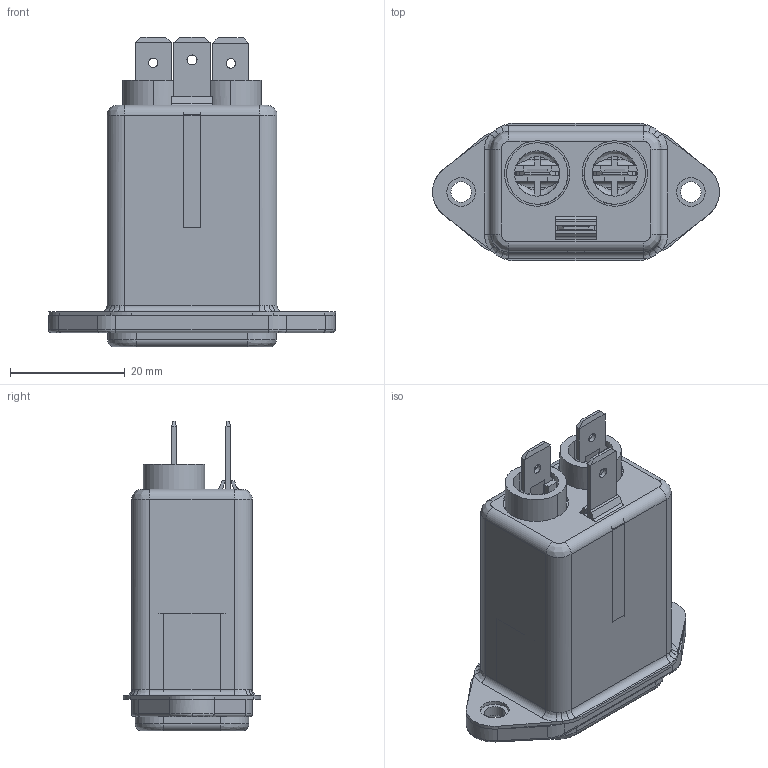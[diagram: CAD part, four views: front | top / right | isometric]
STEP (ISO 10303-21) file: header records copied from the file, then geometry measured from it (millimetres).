
FILE_DESCRIPTION (( 'STEP AP214' ), '1' );
FILE_NAME ('RID-EMC.STEP', '2015-02-02T10:03:07', ( '' ), ( '' ), 'SwSTEP 2.0', 'SolidWorks 2014', '' );
FILE_SCHEMA (( 'AUTOMOTIVE_DESIGN' ));
Length unit declared in the file: millimetre
Products named in the file (9): faston tab 250 L_ｦﾔｦ+; [ﾁ++､ｦﾔ+ｼ] Base Body A(140109)_ﾃﾑ-ﾏ; ENCLOSURE A1_ﾃﾑ-ﾏ; EARTH TAB F_ｦﾔｦ+; inlet body DAC-3; faston tab 250 R_ｦﾔｦ+; inlet pin D_ｦﾔｦ+; inlet pin C_ｦﾔｦ+; RID-EMC
Assembly tree (9 placements, depth 2):
  RID-EMC
    inlet pin C_ｦﾔｦ+
    inlet pin D_ｦﾔｦ+  x2
    faston tab 250 R_ｦﾔｦ+
    inlet body DAC-3
    EARTH TAB F_ｦﾔｦ+
    ENCLOSURE A1_ﾃﾑ-ﾏ
    [ﾁ++､ｦﾔ+ｼ] Base Body A(140109)_ﾃﾑ-ﾏ
    faston tab 250 L_ｦﾔｦ+
Bounding box: 50 x 24 x 54 mm (x, y, z)
Volume: 11741.4 mm3; surface area: 19390.2 mm2
Topology: 9 solids, 9 shells, 619 faces, 1678 edges, 1074 vertices
Faces by surface type: plane 377, cylinder 179, bspline 59, cone 4
Entity records: 22830 total; most frequent: CARTESIAN_POINT 5372, ORIENTED_EDGE 3246, DIRECTION 2871, EDGE_CURVE 1623, VECTOR 1109, LINE 1109, VERTEX_POINT 1040, AXIS2_PLACEMENT_3D 881
